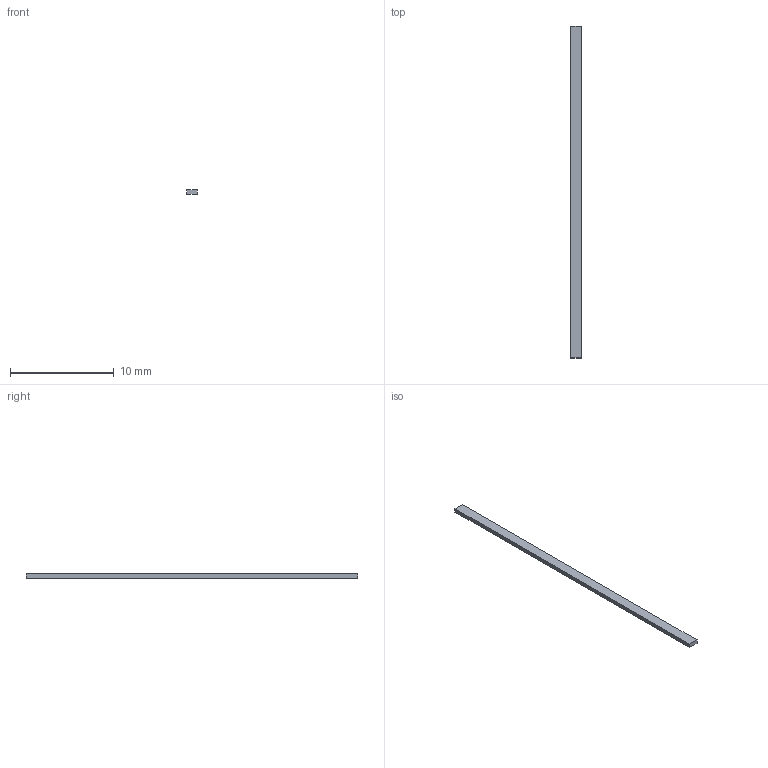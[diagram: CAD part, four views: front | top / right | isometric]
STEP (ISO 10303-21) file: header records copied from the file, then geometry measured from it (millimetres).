
FILE_DESCRIPTION(('Open CASCADE Model'),'2;1');
FILE_NAME('Open CASCADE Shape Model','2026-10-01T12:35:22',('Author'),( 'Open CASCADE'),'Open CASCADE STEP processor 7.8','Open CASCADE 7.8' ,'Unknown');
FILE_SCHEMA(('AUTOMOTIVE_DESIGN { 1 0 10303 214 1 1 1 1 }'));
Length unit declared in the file: millimetre
Products named in the file (2): H08_Power_pad_19_1; H08_Power_pad_19_1_solid
Assembly tree (1 placements, depth 2):
  H08_Power_pad_19_1
    H08_Power_pad_19_1_solid
Bounding box: 1 x 32 x 0.4 mm (x, y, z)
Volume: 12.8 mm3; surface area: 90.4 mm2
Topology: 1 solids, 1 shells, 6 faces, 12 edges, 8 vertices
Faces by surface type: plane 6
Entity records: 349 total; most frequent: CARTESIAN_POINT 52, DIRECTION 52, LINE 36, VECTOR 36, ORIENTED_EDGE 24, PCURVE 24, DEFINITIONAL_REPRESENTATION 24, EDGE_CURVE 12
